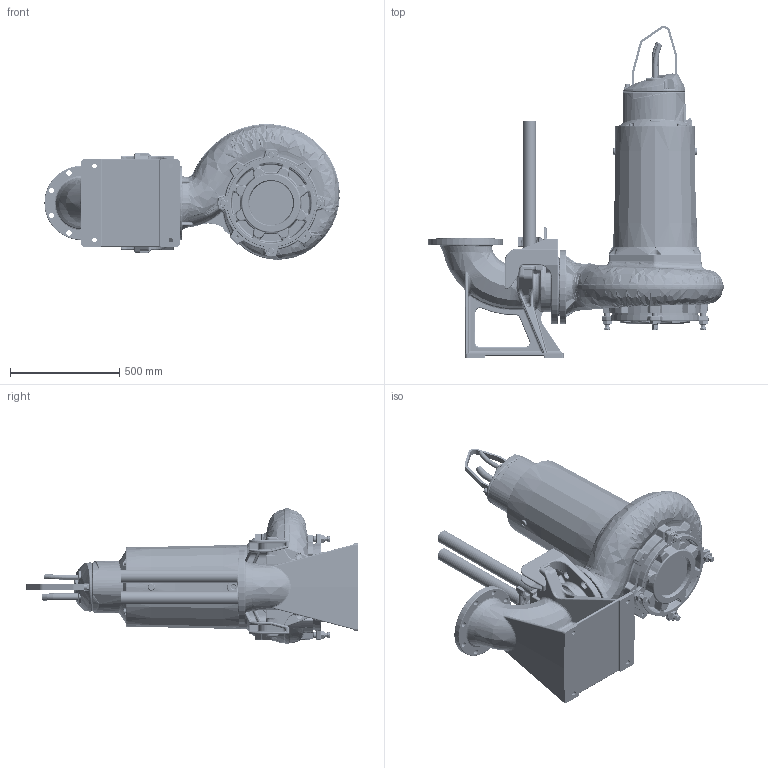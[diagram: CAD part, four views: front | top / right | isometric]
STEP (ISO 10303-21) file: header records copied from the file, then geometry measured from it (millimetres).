
FILE_DESCRIPTION (( 'STEP AP214' ), '1' );
FILE_NAME ('PE3_XFP206J-CB2_WET 2guide_NG2.STEP', '2021-02-25T13:14:28', ( '' ), ( '' ), 'SwSTEP 2.0', 'SolidWorks 2017', '' );
FILE_SCHEMA (( 'AUTOMOTIVE_DESIGN' ));
Length unit declared in the file: millimetre
Products named in the file (1): PE3_XFP206J-CB2_WET 2guide_NG2
Bounding box: 1353.1 x 1521.1 x 621.79 mm (x, y, z)
Volume: 192055972.1 mm3; surface area: 6212451.2 mm2
Topology: 57 solids, 57 shells, 5396 faces, 13019 edges, 7619 vertices
Faces by surface type: bspline 1611, cylinder 1511, plane 1210, torus 481, cone 413, sphere 170
Entity records: 317416 total; most frequent: CARTESIAN_POINT 145326, ORIENTED_EDGE 25382, DIRECTION 21070, EDGE_CURVE 12691, AXIS2_PLACEMENT_3D 8488, VERTEX_POINT 7611, EDGE_LOOP 5768, UNCERTAINTY_MEASURE_WITH_UNIT 5431
